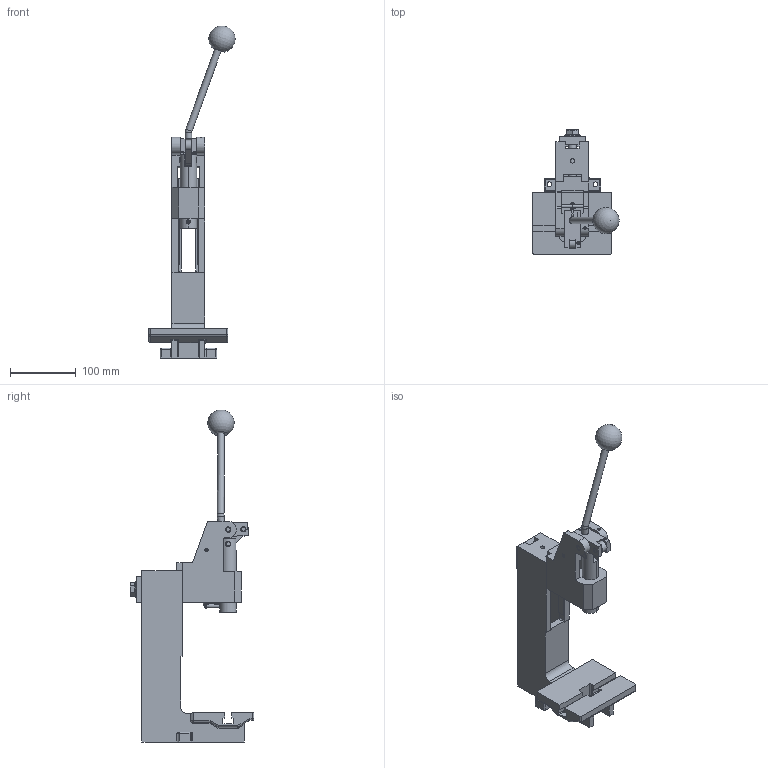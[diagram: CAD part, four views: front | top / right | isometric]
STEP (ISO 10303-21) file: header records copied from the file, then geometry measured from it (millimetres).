
FILE_DESCRIPTION(/* description */ (''),/* implementation_level */ '2;1');
FILE_NAME(/* name */ 'P:\Transfer Test\Pressen HKPV_HKPE\HKPV_HKPE Standard\HKPE 2,5kN\HKPV 2,5kN Hub32 G0100 ANR17987.stp',/* time_stamp */ '2021-01-20T13:38:57+01:00',/* author */ ('gsp'),/* organization */ (''),/* preprocessor_version */ 'ST-DEVELOPER v18',/* originating_system */ 'Autodesk Inventor 2020',/* authorisation */ '');
FILE_SCHEMA (('AUTOMOTIVE_DESIGN { 1 0 10303 214 3 1 1 }'));
Length unit declared in the file: millimetre
Products named in the file (8): HKPV 2,5kN Hub32 G0100 ANR17987; Ständereinheit_G0100_ANR17008; Spannplatte G0100; Führungseinheit_HKPE_2,5kN_Hub32_G0100_ANR17009; Führungseinheit_HKPE_G0100_ohne_Schlitten_ANr17009; Handhebel_Gabelstück_HKPE_G0100_ANR17013-17012; Lasche_HKPE_G0100_ANR17011; Schlitten_HKPE_G0100_ANR17010
Assembly tree (7 placements, depth 3):
  HKPV 2,5kN Hub32 G0100 ANR17987
    Ständereinheit_G0100_ANR17008
    Spannplatte G0100
    Führungseinheit_HKPE_2,5kN_Hub32_G0100_ANR17009
      Führungseinheit_HKPE_G0100_ohne_Schlitten_ANr17009
      Handhebel_Gabelstück_HKPE_G0100_ANR17013-17012
      Lasche_HKPE_G0100_ANR17011
      Schlitten_HKPE_G0100_ANR17010
Bounding box: 130.86 x 188 x 504.05 mm (x, y, z)
Volume: 953721.7 mm3; surface area: 237230.3 mm2
Topology: 8 solids, 12 shells, 552 faces, 1481 edges, 947 vertices
Faces by surface type: plane 270, cylinder 179, cone 52, sphere 21, torus 18, bspline 12
Full cylindrical faces by diameter (mm): 1.6 x1, 2 x4, 3.5 x3, 4 x4, 4.134 x7, 4.917 x1, 5 x4, 5.2 x2, 5.5 x2, 6 x3, 6.647 x1, 7 x2, 8 x11, 8.5 x2, 9 x2, 10 x8, 10.106 x1, 12 x1, 16.63 x1, 24 x1, 25 x1
Entity records: 22862 total; most frequent: CARTESIAN_POINT 8246, DIRECTION 2970, ORIENTED_EDGE 2880, EDGE_CURVE 1440, AXIS2_PLACEMENT_3D 1077, VERTEX_POINT 947, LINE 816, VECTOR 816
